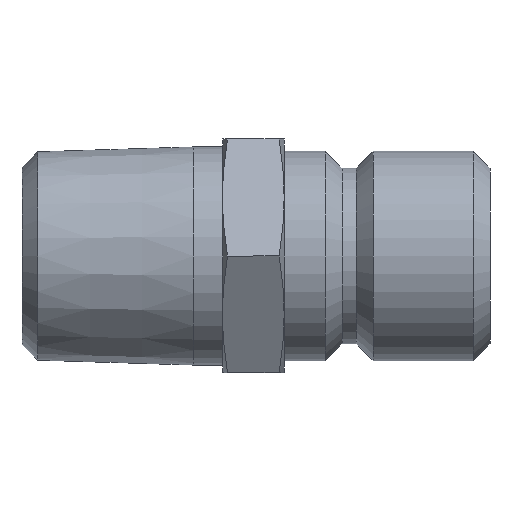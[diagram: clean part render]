
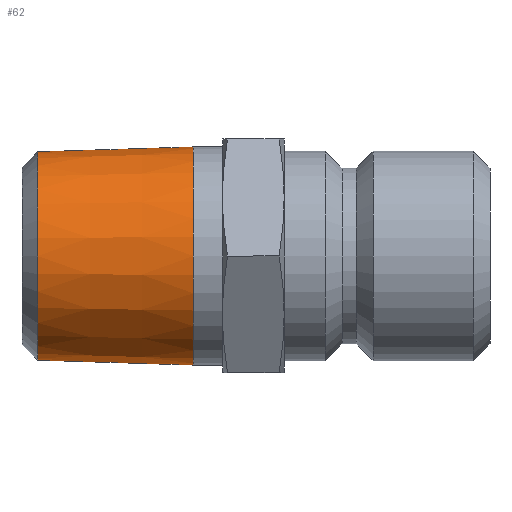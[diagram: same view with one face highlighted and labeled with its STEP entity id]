
A CAD part, front view. The second image highlights one B-rep face of the part: STEP entity #62.
In plain terms, the highlighted conical face has half-angle 1.79 degrees and reference radius 9.896 mm.
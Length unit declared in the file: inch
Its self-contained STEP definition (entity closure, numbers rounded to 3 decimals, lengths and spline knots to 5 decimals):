
#62 = ADVANCED_FACE( '', ( #146, #147 ), #148, .T. );
#146 = FACE_OUTER_BOUND( '', #263, .T. );
#147 = FACE_BOUND( '', #264, .T. );
#148 = CONICAL_SURFACE( '', #265, 0.38962, 0.031 );
#263 = EDGE_LOOP( '', ( #389 ) );
#264 = EDGE_LOOP( '', ( #390 ) );
#265 = AXIS2_PLACEMENT_3D( '', #391, #392, #393 );
#389 = ORIENTED_EDGE( '', *, *, #618, .F. );
#390 = ORIENTED_EDGE( '', *, *, #619, .T. );
#391 = CARTESIAN_POINT( '', ( 0.05902, 0., 0. ) );
#392 = DIRECTION( '', ( 1., 0., 0. ) );
#393 = DIRECTION( '', ( 0., 0., -1. ) );
#618 = EDGE_CURVE( '', #717, #717, #718, .T. );
#619 = EDGE_CURVE( '', #719, #719, #720, .T. );
#717 = VERTEX_POINT( '', #883 );
#718 = CIRCLE( '', #884, 0.4078 );
#719 = VERTEX_POINT( '', #885 );
#720 = CIRCLE( '', #886, 0.38962 );
#883 = CARTESIAN_POINT( '', ( 0.6408, 0., -0.4078 ) );
#884 = AXIS2_PLACEMENT_3D( '', #1071, #1072, #1073 );
#885 = CARTESIAN_POINT( '', ( 0.05902, 0., -0.38962 ) );
#886 = AXIS2_PLACEMENT_3D( '', #1074, #1075, #1076 );
#1071 = CARTESIAN_POINT( '', ( 0.6408, 0., 0. ) );
#1072 = DIRECTION( '', ( 1., 0., 0. ) );
#1073 = DIRECTION( '', ( 0., 0., -1. ) );
#1074 = CARTESIAN_POINT( '', ( 0.05902, 0., 0. ) );
#1075 = DIRECTION( '', ( 1., 0., 0. ) );
#1076 = DIRECTION( '', ( 0., 0., -1. ) );
